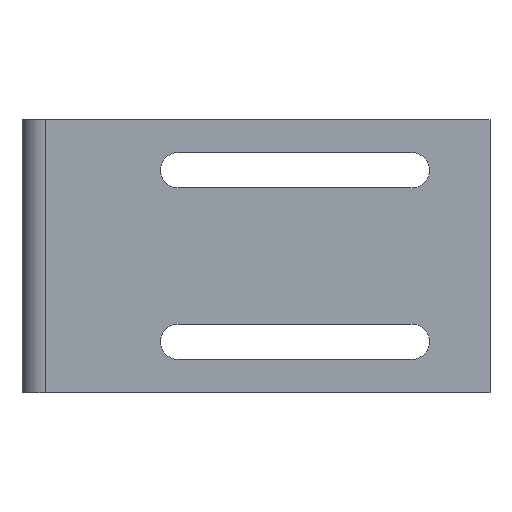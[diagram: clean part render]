
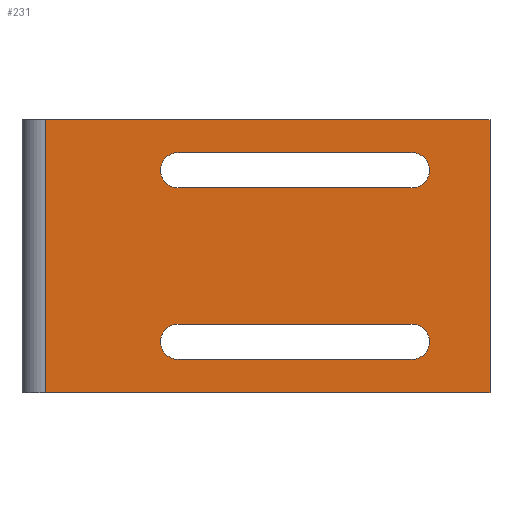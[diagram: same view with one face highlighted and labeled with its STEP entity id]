
A CAD part, front view. The second image highlights one B-rep face of the part: STEP entity #231.
In plain terms, the highlighted planar face has unit normal (0, -1, 0).
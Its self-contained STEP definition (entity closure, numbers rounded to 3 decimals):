
#3 = EDGE_CURVE ( 'NONE', #11, #435, #577, .T. ) ;
#7 = CARTESIAN_POINT ( 'NONE',  ( -10., 0., -8.75 ) ) ;
#8 = DIRECTION ( 'NONE',  ( 0., 0., 1. ) ) ;
#11 = VERTEX_POINT ( 'NONE', #225 ) ;
#14 = FACE_OUTER_BOUND ( 'NONE', #653, .T. ) ;
#16 = DIRECTION ( 'NONE',  ( 0., -1., 0. ) ) ;
#59 = ORIENTED_EDGE ( 'NONE', *, *, #627, .F. ) ;
#62 = DIRECTION ( 'NONE',  ( -1., 0., 0. ) ) ;
#75 = EDGE_CURVE ( 'NONE', #589, #112, #224, .T. ) ;
#76 = VECTOR ( 'NONE', #62, 1000. ) ;
#77 = CARTESIAN_POINT ( 'NONE',  ( -57., 0., 17.5 ) ) ;
#89 = ORIENTED_EDGE ( 'NONE', *, *, #75, .T. ) ;
#91 = VECTOR ( 'NONE', #596, 1000. ) ;
#99 = CARTESIAN_POINT ( 'NONE',  ( 0., 0., -17.5 ) ) ;
#111 = LINE ( 'NONE', #320, #76 ) ;
#112 = VERTEX_POINT ( 'NONE', #99 ) ;
#117 = LINE ( 'NONE', #77, #373 ) ;
#122 = CARTESIAN_POINT ( 'NONE',  ( -10., 0., -8.75 ) ) ;
#126 = DIRECTION ( 'NONE',  ( 0., 1., 0. ) ) ;
#134 = CARTESIAN_POINT ( 'NONE',  ( -10., 0., 13.25 ) ) ;
#145 = ORIENTED_EDGE ( 'NONE', *, *, #174, .T. ) ;
#147 = CARTESIAN_POINT ( 'NONE',  ( -10., 0., -11. ) ) ;
#157 = CARTESIAN_POINT ( 'NONE',  ( -57., 0., -17.5 ) ) ;
#161 = VERTEX_POINT ( 'NONE', #166 ) ;
#163 = ORIENTED_EDGE ( 'NONE', *, *, #411, .T. ) ;
#166 = CARTESIAN_POINT ( 'NONE',  ( -10., 0., 8.75 ) ) ;
#171 = CARTESIAN_POINT ( 'NONE',  ( 0., 0., 17.5 ) ) ;
#174 = EDGE_CURVE ( 'NONE', #435, #480, #567, .T. ) ;
#177 = CARTESIAN_POINT ( 'NONE',  ( -10., 0., -13.25 ) ) ;
#178 = FACE_BOUND ( 'NONE', #468, .T. ) ;
#187 = CARTESIAN_POINT ( 'NONE',  ( -40., 0., 8.75 ) ) ;
#190 = EDGE_CURVE ( 'NONE', #405, #11, #111, .T. ) ;
#202 = DIRECTION ( 'NONE',  ( 1., 0., 0. ) ) ;
#207 = DIRECTION ( 'NONE',  ( 1., 0., 0. ) ) ;
#224 = LINE ( 'NONE', #157, #659 ) ;
#225 = CARTESIAN_POINT ( 'NONE',  ( -40., 0., -13.25 ) ) ;
#227 = VECTOR ( 'NONE', #517, 1000. ) ;
#231 = ADVANCED_FACE ( 'NONE', ( #14, #178, #233 ), #635, .F. ) ;
#233 = FACE_BOUND ( 'NONE', #273, .T. ) ;
#235 = DIRECTION ( 'NONE',  ( 0., 0., -1. ) ) ;
#236 = DIRECTION ( 'NONE',  ( 0., 0., -1. ) ) ;
#239 = AXIS2_PLACEMENT_3D ( 'NONE', #535, #16, #236 ) ;
#242 = DIRECTION ( 'NONE',  ( 0., 0., -1. ) ) ;
#245 = EDGE_CURVE ( 'NONE', #161, #503, #263, .T. ) ;
#251 = DIRECTION ( 'NONE',  ( 0., 0., 1. ) ) ;
#258 = CARTESIAN_POINT ( 'NONE',  ( -40., 0., 11. ) ) ;
#263 = CIRCLE ( 'NONE', #239, 2.25 ) ;
#273 = EDGE_LOOP ( 'NONE', ( #276, #336, #576, #145 ) ) ;
#274 = EDGE_CURVE ( 'NONE', #466, #112, #491, .T. ) ;
#276 = ORIENTED_EDGE ( 'NONE', *, *, #519, .T. ) ;
#279 = LINE ( 'NONE', #436, #629 ) ;
#295 = ORIENTED_EDGE ( 'NONE', *, *, #406, .F. ) ;
#306 = AXIS2_PLACEMENT_3D ( 'NONE', #147, #644, #251 ) ;
#319 = ORIENTED_EDGE ( 'NONE', *, *, #274, .F. ) ;
#320 = CARTESIAN_POINT ( 'NONE',  ( -10., 0., -13.25 ) ) ;
#325 = CARTESIAN_POINT ( 'NONE',  ( -40., 0., -11. ) ) ;
#335 = DIRECTION ( 'NONE',  ( 0., 0., 1. ) ) ;
#336 = ORIENTED_EDGE ( 'NONE', *, *, #190, .T. ) ;
#362 = VERTEX_POINT ( 'NONE', #187 ) ;
#373 = VECTOR ( 'NONE', #235, 1000. ) ;
#379 = AXIS2_PLACEMENT_3D ( 'NONE', #325, #471, #8 ) ;
#381 = DIRECTION ( 'NONE',  ( -1., 0., 0. ) ) ;
#391 = EDGE_CURVE ( 'NONE', #362, #161, #505, .T. ) ;
#404 = CARTESIAN_POINT ( 'NONE',  ( -57., 0., 17.5 ) ) ;
#405 = VERTEX_POINT ( 'NONE', #177 ) ;
#406 = EDGE_CURVE ( 'NONE', #503, #518, #279, .T. ) ;
#411 = EDGE_CURVE ( 'NONE', #613, #589, #117, .T. ) ;
#412 = CIRCLE ( 'NONE', #451, 2.25 ) ;
#435 = VERTEX_POINT ( 'NONE', #637 ) ;
#436 = CARTESIAN_POINT ( 'NONE',  ( -10., 0., 13.25 ) ) ;
#450 = VECTOR ( 'NONE', #202, 1000. ) ;
#451 = AXIS2_PLACEMENT_3D ( 'NONE', #258, #550, #484 ) ;
#453 = CARTESIAN_POINT ( 'NONE',  ( -57., 0., 17.5 ) ) ;
#458 = CARTESIAN_POINT ( 'NONE',  ( -10., 0., 8.75 ) ) ;
#466 = VERTEX_POINT ( 'NONE', #171 ) ;
#468 = EDGE_LOOP ( 'NONE', ( #295, #658, #515, #59 ) ) ;
#471 = DIRECTION ( 'NONE',  ( 0., 1., 0. ) ) ;
#480 = VERTEX_POINT ( 'NONE', #122 ) ;
#484 = DIRECTION ( 'NONE',  ( 0., 0., -1. ) ) ;
#490 = EDGE_CURVE ( 'NONE', #613, #466, #592, .T. ) ;
#491 = LINE ( 'NONE', #661, #630 ) ;
#495 = AXIS2_PLACEMENT_3D ( 'NONE', #584, #126, #335 ) ;
#497 = CARTESIAN_POINT ( 'NONE',  ( -57., 0., -17.5 ) ) ;
#503 = VERTEX_POINT ( 'NONE', #134 ) ;
#504 = CIRCLE ( 'NONE', #306, 2.25 ) ;
#505 = LINE ( 'NONE', #458, #450 ) ;
#515 = ORIENTED_EDGE ( 'NONE', *, *, #391, .F. ) ;
#517 = DIRECTION ( 'NONE',  ( 1., 0., 0. ) ) ;
#518 = VERTEX_POINT ( 'NONE', #602 ) ;
#519 = EDGE_CURVE ( 'NONE', #480, #405, #504, .T. ) ;
#535 = CARTESIAN_POINT ( 'NONE',  ( -10., 0., 11. ) ) ;
#550 = DIRECTION ( 'NONE',  ( 0., -1., 0. ) ) ;
#567 = LINE ( 'NONE', #7, #227 ) ;
#576 = ORIENTED_EDGE ( 'NONE', *, *, #3, .T. ) ;
#577 = CIRCLE ( 'NONE', #379, 2.25 ) ;
#584 = CARTESIAN_POINT ( 'NONE',  ( -57., 0., 17.5 ) ) ;
#589 = VERTEX_POINT ( 'NONE', #497 ) ;
#592 = LINE ( 'NONE', #453, #91 ) ;
#596 = DIRECTION ( 'NONE',  ( 1., 0., 0. ) ) ;
#602 = CARTESIAN_POINT ( 'NONE',  ( -40., 0., 13.25 ) ) ;
#613 = VERTEX_POINT ( 'NONE', #404 ) ;
#616 = ORIENTED_EDGE ( 'NONE', *, *, #490, .F. ) ;
#627 = EDGE_CURVE ( 'NONE', #518, #362, #412, .T. ) ;
#629 = VECTOR ( 'NONE', #381, 1000. ) ;
#630 = VECTOR ( 'NONE', #242, 1000. ) ;
#635 = PLANE ( 'NONE',  #495 ) ;
#637 = CARTESIAN_POINT ( 'NONE',  ( -40., 0., -8.75 ) ) ;
#644 = DIRECTION ( 'NONE',  ( 0., 1., 0. ) ) ;
#653 = EDGE_LOOP ( 'NONE', ( #89, #319, #616, #163 ) ) ;
#658 = ORIENTED_EDGE ( 'NONE', *, *, #245, .F. ) ;
#659 = VECTOR ( 'NONE', #207, 1000. ) ;
#661 = CARTESIAN_POINT ( 'NONE',  ( 0., 0., 17.5 ) ) ;
